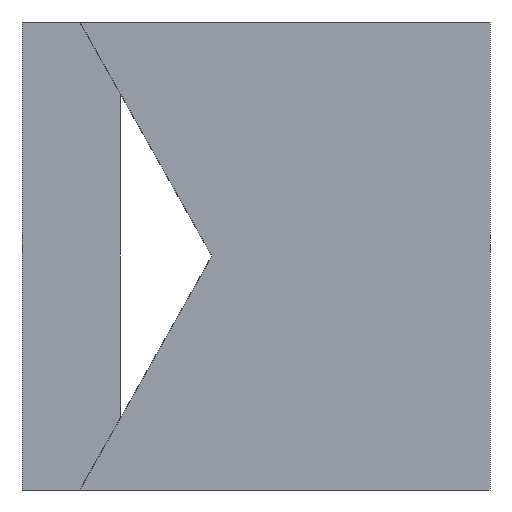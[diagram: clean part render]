
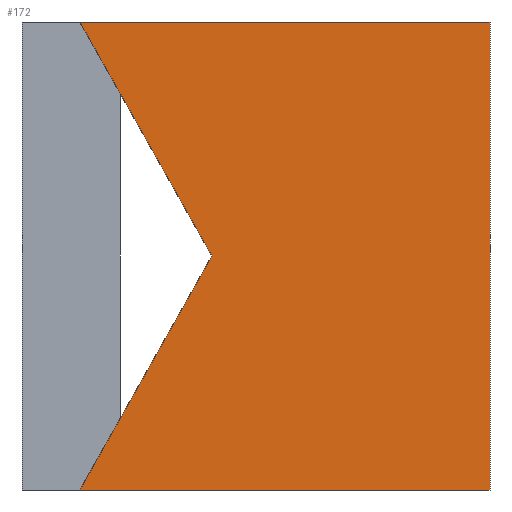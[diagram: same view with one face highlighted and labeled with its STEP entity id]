
A CAD part, front view. The second image highlights one B-rep face of the part: STEP entity #172.
In plain terms, the highlighted planar face has unit normal (0, -1, 0).
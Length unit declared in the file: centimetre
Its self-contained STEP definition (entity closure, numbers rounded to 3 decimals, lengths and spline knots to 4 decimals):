
#9 = VERTEX_POINT ( 'NONE', #11 ) ;
#11 = CARTESIAN_POINT ( 'NONE',  ( 405.5259, 0., 500. ) ) ;
#18 = VECTOR ( 'NONE', #327, 100. ) ;
#21 = DIRECTION ( 'NONE',  ( 0., 1., 0. ) ) ;
#32 = VECTOR ( 'NONE', #86, 100. ) ;
#35 = ORIENTED_EDGE ( 'NONE', *, *, #39, .T. ) ;
#39 = EDGE_CURVE ( 'NONE', #409, #93, #79, .T. ) ;
#56 = CARTESIAN_POINT ( 'NONE',  ( 0., 0., 1000. ) ) ;
#64 = FACE_OUTER_BOUND ( 'NONE', #393, .T. ) ;
#76 = EDGE_CURVE ( 'NONE', #9, #273, #252, .T. ) ;
#79 = LINE ( 'NONE', #219, #18 ) ;
#86 = DIRECTION ( 'NONE',  ( 0., 0., -1. ) ) ;
#92 = CARTESIAN_POINT ( 'NONE',  ( 1000., 0., 0. ) ) ;
#93 = VERTEX_POINT ( 'NONE', #92 ) ;
#102 = DIRECTION ( 'NONE',  ( 1., 0., 0. ) ) ;
#120 = VECTOR ( 'NONE', #102, 100. ) ;
#125 = CARTESIAN_POINT ( 'NONE',  ( 405.5259, 0., 500. ) ) ;
#139 = VECTOR ( 'NONE', #266, 100. ) ;
#145 = VERTEX_POINT ( 'NONE', #343 ) ;
#146 = CARTESIAN_POINT ( 'NONE',  ( 123.6576, 0., 0. ) ) ;
#161 = CARTESIAN_POINT ( 'NONE',  ( 1000., 0., 1000. ) ) ;
#172 = ADVANCED_FACE ( 'NONE', ( #64 ), #339, .F. ) ;
#177 = CARTESIAN_POINT ( 'NONE',  ( 123.6576, 0., 1000. ) ) ;
#185 = ORIENTED_EDGE ( 'NONE', *, *, #441, .F. ) ;
#203 = DIRECTION ( 'NONE',  ( 0.491, 0., 0.871 ) ) ;
#208 = ORIENTED_EDGE ( 'NONE', *, *, #76, .F. ) ;
#219 = CARTESIAN_POINT ( 'NONE',  ( 0., 0., 0. ) ) ;
#222 = LINE ( 'NONE', #161, #32 ) ;
#235 = EDGE_CURVE ( 'NONE', #409, #9, #294, .T. ) ;
#252 = LINE ( 'NONE', #303, #139 ) ;
#266 = DIRECTION ( 'NONE',  ( -0.491, 0., 0.871 ) ) ;
#271 = LINE ( 'NONE', #452, #120 ) ;
#273 = VERTEX_POINT ( 'NONE', #177 ) ;
#283 = AXIS2_PLACEMENT_3D ( 'NONE', #56, #21, #333 ) ;
#294 = LINE ( 'NONE', #125, #440 ) ;
#303 = CARTESIAN_POINT ( 'NONE',  ( 123.6576, 0., 1000. ) ) ;
#327 = DIRECTION ( 'NONE',  ( 1., 0., 0. ) ) ;
#333 = DIRECTION ( 'NONE',  ( 0., 0., 1. ) ) ;
#339 = PLANE ( 'NONE',  #283 ) ;
#343 = CARTESIAN_POINT ( 'NONE',  ( 1000., 0., 1000. ) ) ;
#357 = ORIENTED_EDGE ( 'NONE', *, *, #235, .F. ) ;
#380 = EDGE_CURVE ( 'NONE', #273, #145, #271, .T. ) ;
#393 = EDGE_LOOP ( 'NONE', ( #413, #208, #357, #35, #185 ) ) ;
#409 = VERTEX_POINT ( 'NONE', #146 ) ;
#413 = ORIENTED_EDGE ( 'NONE', *, *, #380, .F. ) ;
#440 = VECTOR ( 'NONE', #203, 100. ) ;
#441 = EDGE_CURVE ( 'NONE', #145, #93, #222, .T. ) ;
#452 = CARTESIAN_POINT ( 'NONE',  ( 0., 0., 1000. ) ) ;
